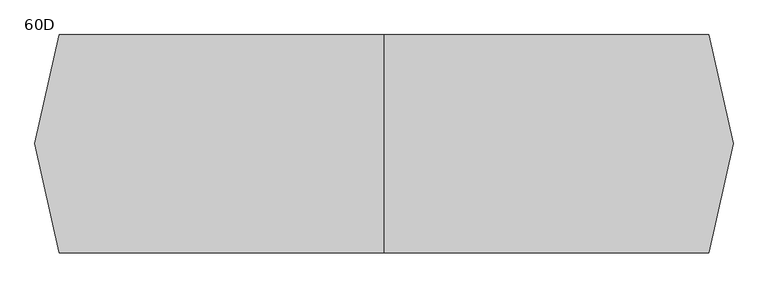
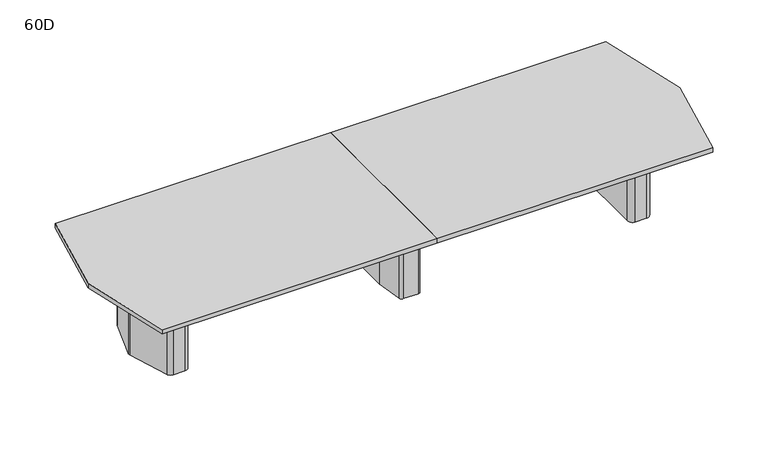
"""IFC4 building model written with IfcOpenShell, lengths in millimetres: furniture geometry, Coalesse_AM_Table_Conference_ETable2_Faceted_16ft_ThreeBase : 60D."""

from ifc_helpers import new_model, si_unit, point, frame, frame_2d, origin, origin_with_axes, place, context, project, spatial, polyline, circle_curve, trimmed, segment, composite_curve, outline, extrude, source, transform, mapped, element, save
from ifc_brep_helpers import plane_surface, cylinder_surface, revolved_surface, advanced_brep


def furniture_60d_2776d96e(model_context):
    return source(origin(), model_context, "Body", "SolidModel", [
        advanced_brep(
        [(61.0357815, 381.0, 698.5), (-61.0357815, 381.0, 698.5), (-86.1885994, 359.1349332, 698.5), (-117.2278179, 138.2753661, 698.5), (-117.475, 134.740433, 698.5), (-117.475, -134.7404196, 698.5), (-117.2278463, -138.2751502, 698.5), (-86.1904395, -359.1347306, 698.5), (-61.0375932, -381.0, 698.5), (61.0375932, -381.0, 698.5), (86.1904395, -359.1347306, 698.5), (117.2278463, -138.2751502, 698.5), (117.475, -134.7404196, 698.5), (117.475, 134.740433, 698.5), (117.2278179, 138.2753661, 698.5), (86.1885994, 359.1349332, 698.5), (25.4, 314.325, 698.5), (50.8, 288.925, 698.5), (50.8, -288.925, 698.5), (25.4, -314.325, 698.5), (-25.4, -314.325, 698.5), (-50.8, -288.925, 698.5), (-50.8, 288.925, 698.5), (-25.4, 314.325, 698.5), (61.0357815, 381.0, 3.175), (86.1885994, 359.1349332, 3.175), (117.2278179, 138.2753661, 3.175), (117.475, 134.740433, 3.175), (117.475, -134.7404196, 3.175), (117.2278463, -138.2751502, 3.175), (86.1904395, -359.1347306, 3.175), (61.0375932, -381.0, 3.175), (-61.0375932, -381.0, 3.175), (-86.1904395, -359.1347306, 3.175), (-117.2278463, -138.2751502, 3.175), (-117.475, -134.7404196, 3.175), (-117.475, 134.740433, 3.175), (-117.2278179, 138.2753661, 3.175), (-86.1885994, 359.1349332, 3.175), (-61.0357815, 381.0, 3.175), (25.4, 327.025, 3.175), (-25.4, 327.025, 3.175), (-63.5, 288.925, 3.175), (-63.5, -288.925, 3.175), (-25.4, -327.025, 3.175), (25.4, -327.025, 3.175), (63.5, -288.925, 3.175), (63.5, 288.925, 3.175), (25.4, 314.325, 3.175), (50.8, 288.925, 3.175), (50.8, -288.925, 3.175), (25.4, -314.325, 3.175), (-25.4, -314.325, 3.175), (-50.8, -288.925, 3.175), (-50.8, 288.925, 3.175), (-25.4, 314.325, 3.175), (25.4, 327.025, 0.0), (63.5, 288.925, 0.0), (63.5, -288.925, 0.0), (25.4, -327.025, 0.0), (-25.4, -327.025, 0.0), (-63.5, -288.925, 0.0), (-63.5, 288.925, 0.0), (-25.4, 327.025, 0.0)],
        [
            (0, 1),
            (1, 2, circle_curve(frame((-61.0357815, 355.6, 698.5), z_axis=(0.0, 0.0, 1.0), x_axis=(1.0, 0.0, 0.0)), 25.4)),
            (2, 3),
            (3, 4, circle_curve(frame((-92.075, 134.740433, 698.5), z_axis=(0.0, 0.0, 1.0), x_axis=(1.0, 0.0, 0.0)), 25.4)),
            (4, 5),
            (5, 6, circle_curve(frame((-92.075, -134.7404196, 698.5), z_axis=(0.0, 0.0, 1.0), x_axis=(1.0, 0.0, 0.0)), 25.4)),
            (6, 7),
            (7, 8, circle_curve(frame((-61.0375932, -355.6, 698.5), z_axis=(0.0, 0.0, 1.0), x_axis=(1.0, 0.0, 0.0)), 25.4)),
            (8, 9),
            (9, 10, circle_curve(frame((61.0375932, -355.6, 698.5), z_axis=(0.0, 0.0, 1.0), x_axis=(1.0, 0.0, 0.0)), 25.4)),
            (10, 11),
            (11, 12, circle_curve(frame((92.075, -134.7404196, 698.5), z_axis=(0.0, 0.0, 1.0), x_axis=(1.0, 0.0, 0.0)), 25.4)),
            (12, 13),
            (13, 14, circle_curve(frame((92.075, 134.740433, 698.5), z_axis=(0.0, 0.0, 1.0), x_axis=(1.0, 0.0, 0.0)), 25.4)),
            (14, 15),
            (15, 0, circle_curve(frame((61.0357815, 355.6, 698.5), z_axis=(0.0, 0.0, 1.0), x_axis=(1.0, 0.0, 0.0)), 25.4)),
            (16, 17, circle_curve(frame((25.4, 288.925, 698.5), z_axis=(0.0, 0.0, -1.0), x_axis=(1.0, 0.0, 0.0)), 25.4)),
            (17, 18),
            (18, 19, circle_curve(frame((25.4, -288.925, 698.5), z_axis=(0.0, 0.0, -1.0), x_axis=(1.0, 0.0, 0.0)), 25.4)),
            (19, 20),
            (20, 21, circle_curve(frame((-25.4, -288.925, 698.5), z_axis=(0.0, 0.0, -1.0), x_axis=(1.0, 0.0, 0.0)), 25.4)),
            (21, 22),
            (22, 23, circle_curve(frame((-25.4, 288.925, 698.5), z_axis=(0.0, 0.0, -1.0), x_axis=(1.0, 0.0, 0.0)), 25.4)),
            (23, 16),
            (24, 25, circle_curve(frame((61.0357815, 355.6, 3.175), z_axis=(0.0, 0.0, -1.0), x_axis=(1.0, 0.0, 0.0)), 25.4)),
            (25, 26),
            (26, 27, circle_curve(frame((92.075, 134.740433, 3.175), z_axis=(0.0, 0.0, -1.0), x_axis=(1.0, 0.0, 0.0)), 25.4)),
            (27, 28),
            (28, 29, circle_curve(frame((92.075, -134.7404196, 3.175), z_axis=(0.0, 0.0, -1.0), x_axis=(1.0, 0.0, 0.0)), 25.4)),
            (29, 30),
            (30, 31, circle_curve(frame((61.0375932, -355.6, 3.175), z_axis=(0.0, 0.0, -1.0), x_axis=(1.0, 0.0, 0.0)), 25.4)),
            (31, 32),
            (32, 33, circle_curve(frame((-61.0375932, -355.6, 3.175), z_axis=(0.0, 0.0, -1.0), x_axis=(1.0, 0.0, 0.0)), 25.4)),
            (33, 34),
            (34, 35, circle_curve(frame((-92.075, -134.7404196, 3.175), z_axis=(0.0, 0.0, -1.0), x_axis=(1.0, 0.0, 0.0)), 25.4)),
            (35, 36),
            (36, 37, circle_curve(frame((-92.075, 134.740433, 3.175), z_axis=(0.0, 0.0, -1.0), x_axis=(1.0, 0.0, 0.0)), 25.4)),
            (37, 38),
            (38, 39, circle_curve(frame((-61.0357815, 355.6, 3.175), z_axis=(0.0, 0.0, -1.0), x_axis=(1.0, 0.0, 0.0)), 25.4)),
            (39, 24),
            (40, 41),
            (41, 42, circle_curve(frame((-25.4, 288.925, 3.175), z_axis=(0.0, 0.0, 1.0), x_axis=(1.0, 0.0, 0.0)), 38.1)),
            (42, 43),
            (43, 44, circle_curve(frame((-25.4, -288.925, 3.175), z_axis=(0.0, 0.0, 1.0), x_axis=(1.0, 0.0, 0.0)), 38.1)),
            (44, 45),
            (45, 46, circle_curve(frame((25.4, -288.925, 3.175), z_axis=(0.0, 0.0, 1.0), x_axis=(1.0, 0.0, 0.0)), 38.1)),
            (46, 47),
            (47, 40, circle_curve(frame((25.4, 288.925, 3.175), z_axis=(0.0, 0.0, 1.0), x_axis=(1.0, 0.0, 0.0)), 38.1)),
            (0, 24),
            (39, 1),
            (38, 2),
            (37, 3),
            (36, 4),
            (35, 5),
            (34, 6),
            (33, 7),
            (32, 8),
            (31, 9),
            (30, 10),
            (29, 11),
            (28, 12),
            (27, 13),
            (26, 14),
            (25, 15),
            (16, 48),
            (48, 49, circle_curve(frame((25.4, 288.925, 3.175), z_axis=(0.0, 0.0, -1.0), x_axis=(1.0, 0.0, 0.0)), 25.4)),
            (49, 17),
            (49, 50),
            (50, 18),
            (50, 51, circle_curve(frame((25.4, -288.925, 3.175), z_axis=(0.0, 0.0, -1.0), x_axis=(1.0, 0.0, 0.0)), 25.4)),
            (51, 19),
            (51, 52),
            (52, 20),
            (52, 53, circle_curve(frame((-25.4, -288.925, 3.175), z_axis=(0.0, 0.0, -1.0), x_axis=(1.0, 0.0, 0.0)), 25.4)),
            (53, 21),
            (53, 54),
            (54, 22),
            (54, 55, circle_curve(frame((-25.4, 288.925, 3.175), z_axis=(0.0, 0.0, -1.0), x_axis=(1.0, 0.0, 0.0)), 25.4)),
            (55, 23),
            (55, 48),
            (56, 57, circle_curve(frame((25.4, 288.925, 0.0), z_axis=(0.0, 0.0, -1.0), x_axis=(1.0, 0.0, 0.0)), 38.1)),
            (57, 58),
            (58, 59, circle_curve(frame((25.4, -288.925, 0.0), z_axis=(0.0, 0.0, -1.0), x_axis=(1.0, 0.0, 0.0)), 38.1)),
            (59, 60),
            (60, 61, circle_curve(frame((-25.4, -288.925, 0.0), z_axis=(0.0, 0.0, -1.0), x_axis=(1.0, 0.0, 0.0)), 38.1)),
            (61, 62),
            (62, 63, circle_curve(frame((-25.4, 288.925, 0.0), z_axis=(0.0, 0.0, -1.0), x_axis=(1.0, 0.0, 0.0)), 38.1)),
            (63, 56),
            (63, 41),
            (40, 56),
            (62, 42),
            (61, 43),
            (60, 44),
            (59, 45),
            (58, 46),
            (57, 47),
        ],
        [
            plane_surface(frame((-1524.0, 381.0, 698.5), z_axis=(0.0, 0.0, 1.0), x_axis=(-1.0, 0.0, 0.0))),
            plane_surface(frame((-1524.0, 381.0, 3.175), z_axis=(0.0, 0.0, -1.0), x_axis=(1.0, 0.0, 0.0))),
            plane_surface(frame((61.0357815, 381.0, 698.5), z_axis=(0.0, 1.0, 0.0), x_axis=(0.0, 0.0, -1.0))),
            cylinder_surface(frame((-61.0357815, 355.6, 3.175), z_axis=(0.0, 0.0, 1.0), x_axis=(1.0, 0.0, 0.0)), 25.4),
            plane_surface(frame((-86.1885994, 359.1349332, 698.5), z_axis=(-0.9902684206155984, 0.13917059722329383, 0.0), x_axis=(0.0, 0.0, -1.0))),
            cylinder_surface(frame((-92.075, 134.740433, 3.175), z_axis=(0.0, 0.0, 1.0), x_axis=(1.0, 0.0, 0.0)), 25.4),
            plane_surface(frame((-117.475, 134.740433, 698.5), z_axis=(-1.0, 0.0, 0.0), x_axis=(0.0, 0.0, -1.0))),
            cylinder_surface(frame((-92.075, -134.7404196, 3.175), z_axis=(0.0, 0.0, 1.0), x_axis=(1.0, 0.0, 0.0)), 25.4),
            plane_surface(frame((-117.2278463, -138.2751502, 698.5), z_axis=(-0.9902695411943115, -0.1391626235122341, 0.0), x_axis=(0.0, 0.0, -1.0))),
            cylinder_surface(frame((-61.0375932, -355.6, 3.175), z_axis=(0.0, 0.0, 1.0), x_axis=(1.0, 0.0, 0.0)), 25.4),
            plane_surface(frame((-61.0375932, -381.0, 698.5), z_axis=(0.0, -1.0, 0.0), x_axis=(0.0, 0.0, -1.0))),
            cylinder_surface(frame((61.0375932, -355.6, 3.175), z_axis=(0.0, 0.0, 1.0), x_axis=(1.0, 0.0, 0.0)), 25.4),
            plane_surface(frame((86.1904395, -359.1347306, 698.5), z_axis=(0.9902695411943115, -0.1391626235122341, 0.0), x_axis=(0.0, 0.0, -1.0))),
            cylinder_surface(frame((92.075, -134.7404196, 3.175), z_axis=(0.0, 0.0, 1.0), x_axis=(1.0, 0.0, 0.0)), 25.4),
            plane_surface(frame((117.475, -134.7404196, 698.5), z_axis=(1.0, 0.0, 0.0), x_axis=(0.0, 0.0, -1.0))),
            cylinder_surface(frame((92.075, 134.740433, 3.175), z_axis=(0.0, 0.0, 1.0), x_axis=(1.0, 0.0, 0.0)), 25.4),
            plane_surface(frame((117.2278179, 138.2753661, 698.5), z_axis=(0.9902684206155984, 0.13917059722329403, 0.0), x_axis=(0.0, 0.0, -1.0))),
            cylinder_surface(frame((61.0357815, 355.6, 3.175), z_axis=(0.0, 0.0, 1.0), x_axis=(1.0, 0.0, 0.0)), 25.4),
            revolved_surface(polyline([(50.8, 288.925, 3.175), (50.8, 288.925, 698.5)]), (25.4, 288.925, 0.0), (0.0, 0.0, -1.0)),
            plane_surface(frame((50.8, 288.925, 698.5), z_axis=(-1.0, 0.0, 0.0), x_axis=(0.0, 0.0, -1.0))),
            revolved_surface(polyline([(50.8, -288.925, 3.175), (50.8, -288.925, 698.5)]), (25.4, -288.925, 0.0), (0.0, 0.0, -1.0)),
            plane_surface(frame((25.4, -314.325, 698.5), z_axis=(0.0, 1.0, 0.0), x_axis=(0.0, 0.0, -1.0))),
            revolved_surface(polyline([(0.0, -288.925, 3.175), (0.0, -288.925, 698.5)]), (-25.4, -288.925, 0.0), (0.0, 0.0, -1.0)),
            plane_surface(frame((-50.8, -288.925, 698.5), z_axis=(1.0, 0.0, 0.0), x_axis=(0.0, 0.0, -1.0))),
            revolved_surface(polyline([(0.0, 288.925, 3.175), (0.0, 288.925, 698.5)]), (-25.4, 288.925, 0.0), (0.0, 0.0, -1.0)),
            plane_surface(frame((-25.4, 314.325, 698.5), z_axis=(0.0, -1.0, 0.0), x_axis=(0.0, 0.0, -1.0))),
            plane_surface(frame((-50.8, 327.025, 3.175), z_axis=(0.0, 0.0, 1.0), x_axis=(-1.0, 0.0, 0.0))),
            plane_surface(frame((-50.8, 327.025, 0.0), z_axis=(0.0, 0.0, -1.0), x_axis=(1.0, 0.0, 0.0))),
            plane_surface(frame((25.4, 327.025, 3.175), z_axis=(0.0, 1.0, 0.0), x_axis=(0.0, 0.0, -1.0))),
            cylinder_surface(frame((-25.4, 288.925, 0.0), z_axis=(0.0, 0.0, 1.0), x_axis=(1.0, 0.0, 0.0)), 38.1),
            plane_surface(frame((-63.5, 288.925, 3.175), z_axis=(-1.0, 0.0, 0.0), x_axis=(0.0, 0.0, -1.0))),
            cylinder_surface(frame((-25.4, -288.925, 0.0), z_axis=(0.0, 0.0, 1.0), x_axis=(1.0, 0.0, 0.0)), 38.1),
            plane_surface(frame((-25.4, -327.025, 3.175), z_axis=(0.0, -1.0, 0.0), x_axis=(0.0, 0.0, -1.0))),
            cylinder_surface(frame((25.4, -288.925, 0.0), z_axis=(0.0, 0.0, 1.0), x_axis=(1.0, 0.0, 0.0)), 38.1),
            plane_surface(frame((63.5, -288.925, 3.175), z_axis=(1.0, 0.0, 0.0), x_axis=(0.0, 0.0, -1.0))),
            cylinder_surface(frame((25.4, 288.925, 0.0), z_axis=(0.0, 0.0, 1.0), x_axis=(1.0, 0.0, 0.0)), 38.1),
        ],
        [
            (0, [[1, 2, 3, 4, 5, 6, 7, 8, 9, 10, 11, 12, 13, 14, 15, 16], [17, 18, 19, 20, 21, 22, 23, 24]]),
            (1, [[25, 26, 27, 28, 29, 30, 31, 32, 33, 34, 35, 36, 37, 38, 39, 40], [41, 42, 43, 44, 45, 46, 47, 48]]),
            (2, [[-1, 49, -40, 50]]),
            (3, [[-2, -50, -39, 51]]),
            (4, [[-3, -51, -38, 52]]),
            (5, [[-4, -52, -37, 53]]),
            (6, [[-5, -53, -36, 54]]),
            (7, [[-6, -54, -35, 55]]),
            (8, [[-7, -55, -34, 56]]),
            (9, [[-8, -56, -33, 57]]),
            (10, [[-9, -57, -32, 58]]),
            (11, [[-10, -58, -31, 59]]),
            (12, [[-11, -59, -30, 60]]),
            (13, [[-12, -60, -29, 61]]),
            (14, [[-13, -61, -28, 62]]),
            (15, [[-14, -62, -27, 63]]),
            (16, [[-15, -63, -26, 64]]),
            (17, [[-16, -64, -25, -49]]),
            (18, [[-17, 65, 66, 67]]),
            (19, [[-18, -67, 68, 69]]),
            (20, [[-19, -69, 70, 71]]),
            (21, [[-20, -71, 72, 73]]),
            (22, [[-21, -73, 74, 75]]),
            (23, [[-22, -75, 76, 77]]),
            (24, [[-23, -77, 78, 79]]),
            (25, [[-24, -79, 80, -65]]),
            (26, [[-66, -80, -78, -76, -74, -72, -70, -68]]),
            (27, [[81, 82, 83, 84, 85, 86, 87, 88]]),
            (28, [[-88, 89, -41, 90]]),
            (29, [[-87, 91, -42, -89]]),
            (30, [[-86, 92, -43, -91]]),
            (31, [[-85, 93, -44, -92]]),
            (32, [[-84, 94, -45, -93]]),
            (33, [[-83, 95, -46, -94]]),
            (34, [[-82, 96, -47, -95]]),
            (35, [[-81, -90, -48, -96]]),
        ],
    ),
        extrude(outline(composite_curve([segment(polyline([(2036.7625, 101.7236478), (2036.7625, -97.2761514)]), True, "CONTINUOUS"), segment(trimmed(circle_curve(frame_2d((1998.6625, -97.2761514)), 38.1), [point((2036.7625, -97.2761514))], [point((2034.9991129, -108.7330515))], False, "CARTESIAN"), True, "CONTINUOUS"), segment(polyline([(2034.9991129, -108.7330515), (1976.5745591, -294.0319001)]), True, "CONTINUOUS"), segment(trimmed(circle_curve(frame_2d((1940.2379462, -282.575)), 38.1), [point((1976.5745591, -294.0319001))], [point((1940.2379462, -320.675))], False, "CARTESIAN"), True, "CONTINUOUS"), segment(polyline([(1940.2379462, -320.675), (1873.25, -320.675)]), True, "CONTINUOUS"), segment(trimmed(circle_curve(frame_2d((1873.25, -282.575)), 38.1), [point((1873.25, -320.675))], [point((1835.15, -282.575))], False, "CARTESIAN"), True, "CONTINUOUS"), segment(polyline([(1835.15, -282.575), (1835.15, 282.575)]), True, "CONTINUOUS"), segment(trimmed(circle_curve(frame_2d((1873.25, 282.575)), 38.1), [point((1835.15, 282.575))], [point((1873.25, 320.675))], False, "CARTESIAN"), True, "CONTINUOUS"), segment(polyline([(1873.25, 320.675), (1943.9873998, 320.675)]), True, "CONTINUOUS"), segment(trimmed(circle_curve(frame_2d((1943.9873998, 282.575)), 38.1), [point((1943.9873998, 320.675))], [point((1980.4572049, 293.6005756))], False, "CARTESIAN"), True, "CONTINUOUS"), segment(polyline([(1980.4572049, 293.6005756), (2035.1323051, 112.7492234)]), True, "CONTINUOUS"), segment(trimmed(circle_curve(frame_2d((1998.6625, 101.7236478)), 38.1), [point((2035.1323051, 112.7492234))], [point((2036.7625, 101.7236478))], False, "CARTESIAN"), True, "CONTINUOUS")], self_intersect=False)), origin_with_axes(), (0.0, 0.0, 1.0), 3.175),
        extrude(outline(composite_curve([segment(polyline([(1857.375, 381.0), (1945.5221663, 381.0)]), True, "CONTINUOUS"), segment(trimmed(circle_curve(frame_2d((1945.5221663, 339.725)), 41.275), [point((1945.5221663, 381.0))], [point((1984.8868303, 352.1366418))], False, "CARTESIAN"), True, "CONTINUOUS"), segment(polyline([(1984.8868303, 352.1366418), (2092.0018053, 12.4116418)]), True, "CONTINUOUS"), segment(trimmed(circle_curve(frame_2d((2052.6371413, 0.0)), 41.275), [point((2092.0018053, 12.4116418))], [point((2092.0018053, -12.4116418))], False, "CARTESIAN"), True, "CONTINUOUS"), segment(polyline([(2092.0018053, -12.4116418), (1984.8868303, -352.1366418)]), True, "CONTINUOUS"), segment(trimmed(circle_curve(frame_2d((1945.5221663, -339.725)), 41.275), [point((1984.8868303, -352.1366418))], [point((1945.5221663, -381.0))], False, "CARTESIAN"), True, "CONTINUOUS"), segment(polyline([(1945.5221663, -381.0), (1851.025, -381.0)]), True, "CONTINUOUS"), segment(trimmed(circle_curve(frame_2d((1851.025, -339.725)), 41.275), [point((1851.025, -381.0))], [point((1809.75, -339.725))], False, "CARTESIAN"), True, "CONTINUOUS"), segment(polyline([(1809.75, -339.725), (1809.75, 333.375)]), True, "CONTINUOUS"), segment(trimmed(circle_curve(frame_2d((1857.375, 333.375)), 47.625), [point((1809.75, 333.375))], [point((1857.375, 381.0))], False, "CARTESIAN"), True, "CONTINUOUS")], self_intersect=False), holes=[composite_curve([segment(trimmed(circle_curve(frame_2d((1873.25, -282.575)), 25.4), [point((1847.85, -282.575))], [point((1873.25, -307.975))], True, "CARTESIAN"), True, "CONTINUOUS"), segment(polyline([(1873.25, -307.975), (1940.2379462, -307.975)]), True, "CONTINUOUS"), segment(trimmed(circle_curve(frame_2d((1940.2379462, -282.575)), 25.4), [point((1940.2379462, -307.975))], [point((1964.4623548, -290.2129334))], True, "CARTESIAN"), True, "CONTINUOUS"), segment(polyline([(1964.4623548, -290.2129334), (2022.8869086, -104.9140848)]), True, "CONTINUOUS"), segment(trimmed(circle_curve(frame_2d((1998.6625, -97.2761514)), 25.4), [point((2022.8869086, -104.9140848))], [point((2024.0625, -97.2761514))], True, "CARTESIAN"), True, "CONTINUOUS"), segment(polyline([(2024.0625, -97.2761514), (2024.0625, 101.7236478)]), True, "CONTINUOUS"), segment(trimmed(circle_curve(frame_2d((1998.6625, 101.7236478)), 25.4), [point((2024.0625, 101.7236478))], [point((2022.9757034, 109.0740316))], True, "CARTESIAN"), True, "CONTINUOUS"), segment(polyline([(2022.9757034, 109.0740316), (1968.3006032, 289.9253837)]), True, "CONTINUOUS"), segment(trimmed(circle_curve(frame_2d((1943.9873998, 282.575)), 25.4), [point((1968.3006032, 289.9253837))], [point((1943.9873998, 307.975))], True, "CARTESIAN"), True, "CONTINUOUS"), segment(polyline([(1943.9873998, 307.975), (1873.25, 307.975)]), True, "CONTINUOUS"), segment(trimmed(circle_curve(frame_2d((1873.25, 282.575)), 25.4), [point((1873.25, 307.975))], [point((1847.85, 282.575))], True, "CARTESIAN"), True, "CONTINUOUS"), segment(polyline([(1847.85, 282.575), (1847.85, -282.575)]), True, "CONTINUOUS")], self_intersect=False)]), frame((0.0, 0.0, 3.175), z_axis=(0.0, 0.0, 1.0), x_axis=(1.0, 0.0, 0.0)), (0.0, 0.0, 1.0), 695.325),
        extrude(outline(composite_curve([segment(trimmed(circle_curve(frame_2d((-2009.775, 101.7236478)), 38.1), [point((-2047.875, 101.7236478))], [point((-2046.2448051, 112.7492234))], False, "CARTESIAN"), True, "CONTINUOUS"), segment(polyline([(-2046.2448051, 112.7492234), (-1991.5697049, 293.6005756)]), True, "CONTINUOUS"), segment(trimmed(circle_curve(frame_2d((-1955.0998998, 282.575)), 38.1), [point((-1991.5697049, 293.6005756))], [point((-1955.0998998, 320.675))], False, "CARTESIAN"), True, "CONTINUOUS"), segment(polyline([(-1955.0998998, 320.675), (-1884.3625, 320.675)]), True, "CONTINUOUS"), segment(trimmed(circle_curve(frame_2d((-1884.3625, 282.575)), 38.1), [point((-1884.3625, 320.675))], [point((-1846.2625, 282.575))], False, "CARTESIAN"), True, "CONTINUOUS"), segment(polyline([(-1846.2625, 282.575), (-1846.2625, -282.575)]), True, "CONTINUOUS"), segment(trimmed(circle_curve(frame_2d((-1884.3625, -282.575)), 38.1), [point((-1846.2625, -282.575))], [point((-1884.3625, -320.675))], False, "CARTESIAN"), True, "CONTINUOUS"), segment(polyline([(-1884.3625, -320.675), (-1951.3504462, -320.675)]), True, "CONTINUOUS"), segment(trimmed(circle_curve(frame_2d((-1951.3504462, -282.575)), 38.1), [point((-1951.3504462, -320.675))], [point((-1987.6870591, -294.0319001))], False, "CARTESIAN"), True, "CONTINUOUS"), segment(polyline([(-1987.6870591, -294.0319001), (-2046.1116129, -108.7330515)]), True, "CONTINUOUS"), segment(trimmed(circle_curve(frame_2d((-2009.775, -97.2761514)), 38.1), [point((-2046.1116129, -108.7330515))], [point((-2047.875, -97.2761514))], False, "CARTESIAN"), True, "CONTINUOUS"), segment(polyline([(-2047.875, -97.2761514), (-2047.875, 101.7236478)]), True, "CONTINUOUS")], self_intersect=False)), origin_with_axes(), (0.0, 0.0, 1.0), 3.175),
        extrude(outline(composite_curve([segment(trimmed(circle_curve(frame_2d((-1868.4875, 333.375)), 47.625), [point((-1868.4875, 381.0))], [point((-1820.8625, 333.375))], False, "CARTESIAN"), True, "CONTINUOUS"), segment(polyline([(-1820.8625, 333.375), (-1820.8625, -339.725)]), True, "CONTINUOUS"), segment(trimmed(circle_curve(frame_2d((-1862.1375, -339.725)), 41.275), [point((-1820.8625, -339.725))], [point((-1862.1375, -381.0))], False, "CARTESIAN"), True, "CONTINUOUS"), segment(polyline([(-1862.1375, -381.0), (-1956.6346663, -381.0)]), True, "CONTINUOUS"), segment(trimmed(circle_curve(frame_2d((-1956.6346663, -339.725)), 41.275), [point((-1956.6346663, -381.0))], [point((-1995.9993303, -352.1366418))], False, "CARTESIAN"), True, "CONTINUOUS"), segment(polyline([(-1995.9993303, -352.1366418), (-2103.1143053, -12.4116418)]), True, "CONTINUOUS"), segment(trimmed(circle_curve(frame_2d((-2063.7496413, 0.0)), 41.275), [point((-2103.1143053, -12.4116418))], [point((-2103.1143053, 12.4116418))], False, "CARTESIAN"), True, "CONTINUOUS"), segment(polyline([(-2103.1143053, 12.4116418), (-1995.9993303, 352.1366418)]), True, "CONTINUOUS"), segment(trimmed(circle_curve(frame_2d((-1956.6346663, 339.725)), 41.275), [point((-1995.9993303, 352.1366418))], [point((-1956.6346663, 381.0))], False, "CARTESIAN"), True, "CONTINUOUS"), segment(polyline([(-1956.6346663, 381.0), (-1868.4875, 381.0)]), True, "CONTINUOUS")], self_intersect=False), holes=[composite_curve([segment(polyline([(-1858.9625, -282.575), (-1858.9625, 282.575)]), True, "CONTINUOUS"), segment(trimmed(circle_curve(frame_2d((-1884.3625, 282.575)), 25.4), [point((-1858.9625, 282.575))], [point((-1884.3625, 307.975))], True, "CARTESIAN"), True, "CONTINUOUS"), segment(polyline([(-1884.3625, 307.975), (-1955.0998998, 307.975)]), True, "CONTINUOUS"), segment(trimmed(circle_curve(frame_2d((-1955.0998998, 282.575)), 25.4), [point((-1955.0998998, 307.975))], [point((-1979.4131032, 289.9253837))], True, "CARTESIAN"), True, "CONTINUOUS"), segment(polyline([(-1979.4131032, 289.9253837), (-2034.0882034, 109.0740316)]), True, "CONTINUOUS"), segment(trimmed(circle_curve(frame_2d((-2009.775, 101.7236478)), 25.4), [point((-2034.0882034, 109.0740316))], [point((-2035.175, 101.7236478))], True, "CARTESIAN"), True, "CONTINUOUS"), segment(polyline([(-2035.175, 101.7236478), (-2035.175, -97.2761514)]), True, "CONTINUOUS"), segment(trimmed(circle_curve(frame_2d((-2009.775, -97.2761514)), 25.4), [point((-2035.175, -97.2761514))], [point((-2033.9994086, -104.9140848))], True, "CARTESIAN"), True, "CONTINUOUS"), segment(polyline([(-2033.9994086, -104.9140848), (-1975.5748548, -290.2129334)]), True, "CONTINUOUS"), segment(trimmed(circle_curve(frame_2d((-1951.3504462, -282.575)), 25.4), [point((-1975.5748548, -290.2129334))], [point((-1951.3504462, -307.975))], True, "CARTESIAN"), True, "CONTINUOUS"), segment(polyline([(-1951.3504462, -307.975), (-1884.3625, -307.975)]), True, "CONTINUOUS"), segment(trimmed(circle_curve(frame_2d((-1884.3625, -282.575)), 25.4), [point((-1884.3625, -307.975))], [point((-1858.9625, -282.575))], True, "CARTESIAN"), True, "CONTINUOUS")], self_intersect=False)]), frame((0.0, 0.0, 3.175), z_axis=(0.0, 0.0, 1.0), x_axis=(1.0, 0.0, 0.0)), (0.0, 0.0, 1.0), 695.325),
        extrude(outline(polyline([(2269.4677242, 762.0), (2438.4, 0.0), (2269.4677242, -762.0), (0.0, -762.0), (0.0, 762.0), (2269.4677242, 762.0)])), frame((0.0, 0.0, 698.5), z_axis=(0.0, 0.0, 1.0), x_axis=(1.0, 0.0, 0.0)), (0.0, 0.0, 1.0), 38.1),
        extrude(outline(polyline([(0.0, 762.0), (0.0, -762.0), (-2269.4677242, -762.0), (-2438.4, 0.0), (-2269.4677242, 762.0), (0.0, 762.0)])), frame((0.0, 0.0, 698.5), z_axis=(0.0, 0.0, 1.0), x_axis=(1.0, 0.0, 0.0)), (0.0, 0.0, 1.0), 38.1),
        extrude(outline(polyline([(96.8375, 698.5), (103.1875, 698.5), (103.1875, 476.25), (-103.1875, 476.25), (-103.1875, 698.5), (-96.8375, 698.5), (-96.8375, 482.6), (96.8375, 482.6), (96.8375, 698.5)])), frame((-1820.8625, 0.0, 0.0), z_axis=(1.0, 0.0, 0.0), x_axis=(0.0, 1.0, 0.0)), (0.0, 0.0, 1.0), 3630.6125),
    ])


if __name__ == "__main__":
    model = new_model("IFC4")
    model_context = context("Model", 3, world=origin())
    ifc_project = project(units=[si_unit("LENGTHUNIT", "METRE", prefix="MILLI")], contexts=[model_context])
    site = spatial("IfcSite", under=ifc_project)
    building = spatial("IfcBuilding", under=site)
    placement = place(None, origin())
    furniture_60d_shape = furniture_60d_2776d96e(model_context)
    element("IfcFurniture", 1, ObjectType="Coalesse_AM_Table_Conference_ETable2_Faceted_16ft_ThreeBase : 60D", at=placement, inside=building, context=model_context, shape_type="MappedRepresentation", body=[
        mapped(furniture_60d_shape, transform((0.0, 0.0, 0.0), x_axis=(1.0, 0.0, 0.0), y_axis=(0.0, 1.0, 0.0), z_axis=(0.0, 0.0, 1.0))),
    ])
    save(model, "model.ifc")
